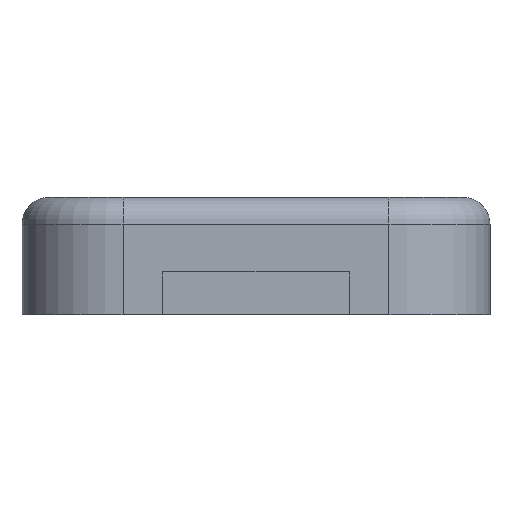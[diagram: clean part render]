
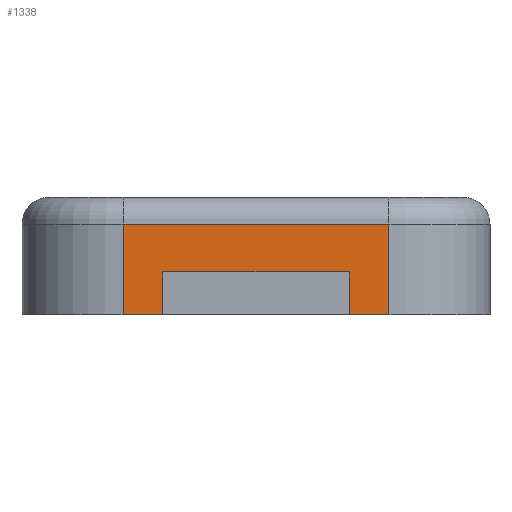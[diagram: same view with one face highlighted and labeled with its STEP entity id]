
A CAD part, front view. The second image highlights one B-rep face of the part: STEP entity #1338.
In plain terms, the highlighted planar face has unit normal (0, -1, 0).
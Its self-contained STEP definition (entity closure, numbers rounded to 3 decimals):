
#44 = CYLINDRICAL_SURFACE('',#45,19.);
#45 = AXIS2_PLACEMENT_3D('',#46,#47,#48);
#46 = CARTESIAN_POINT('',(-25.,-49.,-14.));
#47 = DIRECTION('',(0.,0.,1.));
#48 = DIRECTION('',(-1.,-0.,0.));
#72 = PLANE('',#73);
#73 = AXIS2_PLACEMENT_3D('',#74,#75,#76);
#74 = CARTESIAN_POINT('',(-100.,-110.,-8.));
#75 = DIRECTION('',(0.,0.,1.));
#76 = DIRECTION('',(1.,0.,-0.));
#209 = VERTEX_POINT('',#210);
#210 = CARTESIAN_POINT('',(-25.,-68.,-8.));
#232 = EDGE_CURVE('',#209,#233,#235,.T.);
#233 = VERTEX_POINT('',#234);
#234 = CARTESIAN_POINT('',(-25.,-68.,9.));
#235 = SURFACE_CURVE('',#236,(#240,#247),.PCURVE_S1.);
#236 = LINE('',#237,#238);
#237 = CARTESIAN_POINT('',(-25.,-68.,-14.));
#238 = VECTOR('',#239,1.);
#239 = DIRECTION('',(0.,0.,1.));
#240 = PCURVE('',#44,#241);
#241 = DEFINITIONAL_REPRESENTATION('',(#242),#246);
#242 = LINE('',#243,#244);
#243 = CARTESIAN_POINT('',(1.571,0.));
#244 = VECTOR('',#245,1.);
#245 = DIRECTION('',(0.,1.));
#246 = ( GEOMETRIC_REPRESENTATION_CONTEXT(2) 
PARAMETRIC_REPRESENTATION_CONTEXT() REPRESENTATION_CONTEXT('2D SPACE',''
  ) );
#247 = PCURVE('',#248,#253);
#248 = PLANE('',#249);
#249 = AXIS2_PLACEMENT_3D('',#250,#251,#252);
#250 = CARTESIAN_POINT('',(-44.,-68.,-14.));
#251 = DIRECTION('',(0.,1.,0.));
#252 = DIRECTION('',(0.,-0.,1.));
#253 = DEFINITIONAL_REPRESENTATION('',(#254),#258);
#254 = LINE('',#255,#256);
#255 = CARTESIAN_POINT('',(0.,19.));
#256 = VECTOR('',#257,1.);
#257 = DIRECTION('',(1.,0.));
#258 = ( GEOMETRIC_REPRESENTATION_CONTEXT(2) 
PARAMETRIC_REPRESENTATION_CONTEXT() REPRESENTATION_CONTEXT('2D SPACE',''
  ) );
#454 = EDGE_CURVE('',#209,#455,#457,.T.);
#455 = VERTEX_POINT('',#456);
#456 = CARTESIAN_POINT('',(-17.5,-68.,-8.));
#457 = SURFACE_CURVE('',#458,(#462,#469),.PCURVE_S1.);
#458 = LINE('',#459,#460);
#459 = CARTESIAN_POINT('',(-72.,-68.,-8.));
#460 = VECTOR('',#461,1.);
#461 = DIRECTION('',(1.,0.,0.));
#462 = PCURVE('',#72,#463);
#463 = DEFINITIONAL_REPRESENTATION('',(#464),#468);
#464 = LINE('',#465,#466);
#465 = CARTESIAN_POINT('',(28.,42.));
#466 = VECTOR('',#467,1.);
#467 = DIRECTION('',(1.,0.));
#468 = ( GEOMETRIC_REPRESENTATION_CONTEXT(2) 
PARAMETRIC_REPRESENTATION_CONTEXT() REPRESENTATION_CONTEXT('2D SPACE',''
  ) );
#469 = PCURVE('',#248,#470);
#470 = DEFINITIONAL_REPRESENTATION('',(#471),#475);
#471 = LINE('',#472,#473);
#472 = CARTESIAN_POINT('',(6.,-28.));
#473 = VECTOR('',#474,1.);
#474 = DIRECTION('',(0.,1.));
#475 = ( GEOMETRIC_REPRESENTATION_CONTEXT(2) 
PARAMETRIC_REPRESENTATION_CONTEXT() REPRESENTATION_CONTEXT('2D SPACE',''
  ) );
#493 = PLANE('',#494);
#494 = AXIS2_PLACEMENT_3D('',#495,#496,#497);
#495 = CARTESIAN_POINT('',(-17.5,-74.,-12.));
#496 = DIRECTION('',(1.,0.,0.));
#497 = DIRECTION('',(0.,0.,1.));
#1338 = ADVANCED_FACE('',(#1339),#248,.F.);
#1339 = FACE_BOUND('',#1340,.F.);
#1340 = EDGE_LOOP('',(#1341,#1342,#1343,#1371,#1399,#1427,#1455,#1483));
#1341 = ORIENTED_EDGE('',*,*,#454,.F.);
#1342 = ORIENTED_EDGE('',*,*,#232,.T.);
#1343 = ORIENTED_EDGE('',*,*,#1344,.F.);
#1344 = EDGE_CURVE('',#1345,#233,#1347,.T.);
#1345 = VERTEX_POINT('',#1346);
#1346 = CARTESIAN_POINT('',(25.,-68.,9.));
#1347 = SURFACE_CURVE('',#1348,(#1352,#1359),.PCURVE_S1.);
#1348 = LINE('',#1349,#1350);
#1349 = CARTESIAN_POINT('',(25.,-68.,9.));
#1350 = VECTOR('',#1351,1.);
#1351 = DIRECTION('',(-1.,-0.,-0.));
#1352 = PCURVE('',#248,#1353);
#1353 = DEFINITIONAL_REPRESENTATION('',(#1354),#1358);
#1354 = LINE('',#1355,#1356);
#1355 = CARTESIAN_POINT('',(23.,69.));
#1356 = VECTOR('',#1357,1.);
#1357 = DIRECTION('',(0.,-1.));
#1358 = ( GEOMETRIC_REPRESENTATION_CONTEXT(2) 
PARAMETRIC_REPRESENTATION_CONTEXT() REPRESENTATION_CONTEXT('2D SPACE',''
  ) );
#1359 = PCURVE('',#1360,#1365);
#1360 = CYLINDRICAL_SURFACE('',#1361,5.);
#1361 = AXIS2_PLACEMENT_3D('',#1362,#1363,#1364);
#1362 = CARTESIAN_POINT('',(25.,-63.,9.));
#1363 = DIRECTION('',(-1.,-0.,-0.));
#1364 = DIRECTION('',(0.,-1.,0.));
#1365 = DEFINITIONAL_REPRESENTATION('',(#1366),#1370);
#1366 = LINE('',#1367,#1368);
#1367 = CARTESIAN_POINT('',(0.,0.));
#1368 = VECTOR('',#1369,1.);
#1369 = DIRECTION('',(0.,1.));
#1370 = ( GEOMETRIC_REPRESENTATION_CONTEXT(2) 
PARAMETRIC_REPRESENTATION_CONTEXT() REPRESENTATION_CONTEXT('2D SPACE',''
  ) );
#1371 = ORIENTED_EDGE('',*,*,#1372,.F.);
#1372 = EDGE_CURVE('',#1373,#1345,#1375,.T.);
#1373 = VERTEX_POINT('',#1374);
#1374 = CARTESIAN_POINT('',(25.,-68.,-8.));
#1375 = SURFACE_CURVE('',#1376,(#1380,#1387),.PCURVE_S1.);
#1376 = LINE('',#1377,#1378);
#1377 = CARTESIAN_POINT('',(25.,-68.,-14.));
#1378 = VECTOR('',#1379,1.);
#1379 = DIRECTION('',(0.,0.,1.));
#1380 = PCURVE('',#248,#1381);
#1381 = DEFINITIONAL_REPRESENTATION('',(#1382),#1386);
#1382 = LINE('',#1383,#1384);
#1383 = CARTESIAN_POINT('',(0.,69.));
#1384 = VECTOR('',#1385,1.);
#1385 = DIRECTION('',(1.,0.));
#1386 = ( GEOMETRIC_REPRESENTATION_CONTEXT(2) 
PARAMETRIC_REPRESENTATION_CONTEXT() REPRESENTATION_CONTEXT('2D SPACE',''
  ) );
#1387 = PCURVE('',#1388,#1393);
#1388 = CYLINDRICAL_SURFACE('',#1389,19.);
#1389 = AXIS2_PLACEMENT_3D('',#1390,#1391,#1392);
#1390 = CARTESIAN_POINT('',(25.,-49.,-14.));
#1391 = DIRECTION('',(0.,0.,1.));
#1392 = DIRECTION('',(1.,0.,-0.));
#1393 = DEFINITIONAL_REPRESENTATION('',(#1394),#1398);
#1394 = LINE('',#1395,#1396);
#1395 = CARTESIAN_POINT('',(4.712,0.));
#1396 = VECTOR('',#1397,1.);
#1397 = DIRECTION('',(-0.,1.));
#1398 = ( GEOMETRIC_REPRESENTATION_CONTEXT(2) 
PARAMETRIC_REPRESENTATION_CONTEXT() REPRESENTATION_CONTEXT('2D SPACE',''
  ) );
#1399 = ORIENTED_EDGE('',*,*,#1400,.F.);
#1400 = EDGE_CURVE('',#1401,#1373,#1403,.T.);
#1401 = VERTEX_POINT('',#1402);
#1402 = CARTESIAN_POINT('',(17.5,-68.,-8.));
#1403 = SURFACE_CURVE('',#1404,(#1408,#1415),.PCURVE_S1.);
#1404 = LINE('',#1405,#1406);
#1405 = CARTESIAN_POINT('',(-72.,-68.,-8.));
#1406 = VECTOR('',#1407,1.);
#1407 = DIRECTION('',(1.,0.,0.));
#1408 = PCURVE('',#248,#1409);
#1409 = DEFINITIONAL_REPRESENTATION('',(#1410),#1414);
#1410 = LINE('',#1411,#1412);
#1411 = CARTESIAN_POINT('',(6.,-28.));
#1412 = VECTOR('',#1413,1.);
#1413 = DIRECTION('',(0.,1.));
#1414 = ( GEOMETRIC_REPRESENTATION_CONTEXT(2) 
PARAMETRIC_REPRESENTATION_CONTEXT() REPRESENTATION_CONTEXT('2D SPACE',''
  ) );
#1415 = PCURVE('',#1416,#1421);
#1416 = PLANE('',#1417);
#1417 = AXIS2_PLACEMENT_3D('',#1418,#1419,#1420);
#1418 = CARTESIAN_POINT('',(-100.,-110.,-8.));
#1419 = DIRECTION('',(0.,0.,1.));
#1420 = DIRECTION('',(1.,0.,-0.));
#1421 = DEFINITIONAL_REPRESENTATION('',(#1422),#1426);
#1422 = LINE('',#1423,#1424);
#1423 = CARTESIAN_POINT('',(28.,42.));
#1424 = VECTOR('',#1425,1.);
#1425 = DIRECTION('',(1.,0.));
#1426 = ( GEOMETRIC_REPRESENTATION_CONTEXT(2) 
PARAMETRIC_REPRESENTATION_CONTEXT() REPRESENTATION_CONTEXT('2D SPACE',''
  ) );
#1427 = ORIENTED_EDGE('',*,*,#1428,.F.);
#1428 = EDGE_CURVE('',#1429,#1401,#1431,.T.);
#1429 = VERTEX_POINT('',#1430);
#1430 = CARTESIAN_POINT('',(17.5,-68.,0.));
#1431 = SURFACE_CURVE('',#1432,(#1436,#1443),.PCURVE_S1.);
#1432 = LINE('',#1433,#1434);
#1433 = CARTESIAN_POINT('',(17.5,-68.,-13.));
#1434 = VECTOR('',#1435,1.);
#1435 = DIRECTION('',(0.,0.,-1.));
#1436 = PCURVE('',#248,#1437);
#1437 = DEFINITIONAL_REPRESENTATION('',(#1438),#1442);
#1438 = LINE('',#1439,#1440);
#1439 = CARTESIAN_POINT('',(1.,61.5));
#1440 = VECTOR('',#1441,1.);
#1441 = DIRECTION('',(-1.,0.));
#1442 = ( GEOMETRIC_REPRESENTATION_CONTEXT(2) 
PARAMETRIC_REPRESENTATION_CONTEXT() REPRESENTATION_CONTEXT('2D SPACE',''
  ) );
#1443 = PCURVE('',#1444,#1449);
#1444 = PLANE('',#1445);
#1445 = AXIS2_PLACEMENT_3D('',#1446,#1447,#1448);
#1446 = CARTESIAN_POINT('',(17.5,-74.,-12.));
#1447 = DIRECTION('',(1.,0.,0.));
#1448 = DIRECTION('',(0.,0.,1.));
#1449 = DEFINITIONAL_REPRESENTATION('',(#1450),#1454);
#1450 = LINE('',#1451,#1452);
#1451 = CARTESIAN_POINT('',(-1.,-6.));
#1452 = VECTOR('',#1453,1.);
#1453 = DIRECTION('',(-1.,0.));
#1454 = ( GEOMETRIC_REPRESENTATION_CONTEXT(2) 
PARAMETRIC_REPRESENTATION_CONTEXT() REPRESENTATION_CONTEXT('2D SPACE',''
  ) );
#1455 = ORIENTED_EDGE('',*,*,#1456,.F.);
#1456 = EDGE_CURVE('',#1457,#1429,#1459,.T.);
#1457 = VERTEX_POINT('',#1458);
#1458 = CARTESIAN_POINT('',(-17.5,-68.,0.));
#1459 = SURFACE_CURVE('',#1460,(#1464,#1471),.PCURVE_S1.);
#1460 = LINE('',#1461,#1462);
#1461 = CARTESIAN_POINT('',(-30.75,-68.,0.));
#1462 = VECTOR('',#1463,1.);
#1463 = DIRECTION('',(1.,0.,0.));
#1464 = PCURVE('',#248,#1465);
#1465 = DEFINITIONAL_REPRESENTATION('',(#1466),#1470);
#1466 = LINE('',#1467,#1468);
#1467 = CARTESIAN_POINT('',(14.,13.25));
#1468 = VECTOR('',#1469,1.);
#1469 = DIRECTION('',(0.,1.));
#1470 = ( GEOMETRIC_REPRESENTATION_CONTEXT(2) 
PARAMETRIC_REPRESENTATION_CONTEXT() REPRESENTATION_CONTEXT('2D SPACE',''
  ) );
#1471 = PCURVE('',#1472,#1477);
#1472 = PLANE('',#1473);
#1473 = AXIS2_PLACEMENT_3D('',#1474,#1475,#1476);
#1474 = CARTESIAN_POINT('',(-17.5,-74.,0.));
#1475 = DIRECTION('',(0.,0.,1.));
#1476 = DIRECTION('',(1.,0.,-0.));
#1477 = DEFINITIONAL_REPRESENTATION('',(#1478),#1482);
#1478 = LINE('',#1479,#1480);
#1479 = CARTESIAN_POINT('',(-13.25,6.));
#1480 = VECTOR('',#1481,1.);
#1481 = DIRECTION('',(1.,0.));
#1482 = ( GEOMETRIC_REPRESENTATION_CONTEXT(2) 
PARAMETRIC_REPRESENTATION_CONTEXT() REPRESENTATION_CONTEXT('2D SPACE',''
  ) );
#1483 = ORIENTED_EDGE('',*,*,#1484,.T.);
#1484 = EDGE_CURVE('',#1457,#455,#1485,.T.);
#1485 = SURFACE_CURVE('',#1486,(#1490,#1497),.PCURVE_S1.);
#1486 = LINE('',#1487,#1488);
#1487 = CARTESIAN_POINT('',(-17.5,-68.,-13.));
#1488 = VECTOR('',#1489,1.);
#1489 = DIRECTION('',(0.,0.,-1.));
#1490 = PCURVE('',#248,#1491);
#1491 = DEFINITIONAL_REPRESENTATION('',(#1492),#1496);
#1492 = LINE('',#1493,#1494);
#1493 = CARTESIAN_POINT('',(1.,26.5));
#1494 = VECTOR('',#1495,1.);
#1495 = DIRECTION('',(-1.,0.));
#1496 = ( GEOMETRIC_REPRESENTATION_CONTEXT(2) 
PARAMETRIC_REPRESENTATION_CONTEXT() REPRESENTATION_CONTEXT('2D SPACE',''
  ) );
#1497 = PCURVE('',#493,#1498);
#1498 = DEFINITIONAL_REPRESENTATION('',(#1499),#1503);
#1499 = LINE('',#1500,#1501);
#1500 = CARTESIAN_POINT('',(-1.,-6.));
#1501 = VECTOR('',#1502,1.);
#1502 = DIRECTION('',(-1.,0.));
#1503 = ( GEOMETRIC_REPRESENTATION_CONTEXT(2) 
PARAMETRIC_REPRESENTATION_CONTEXT() REPRESENTATION_CONTEXT('2D SPACE',''
  ) );
